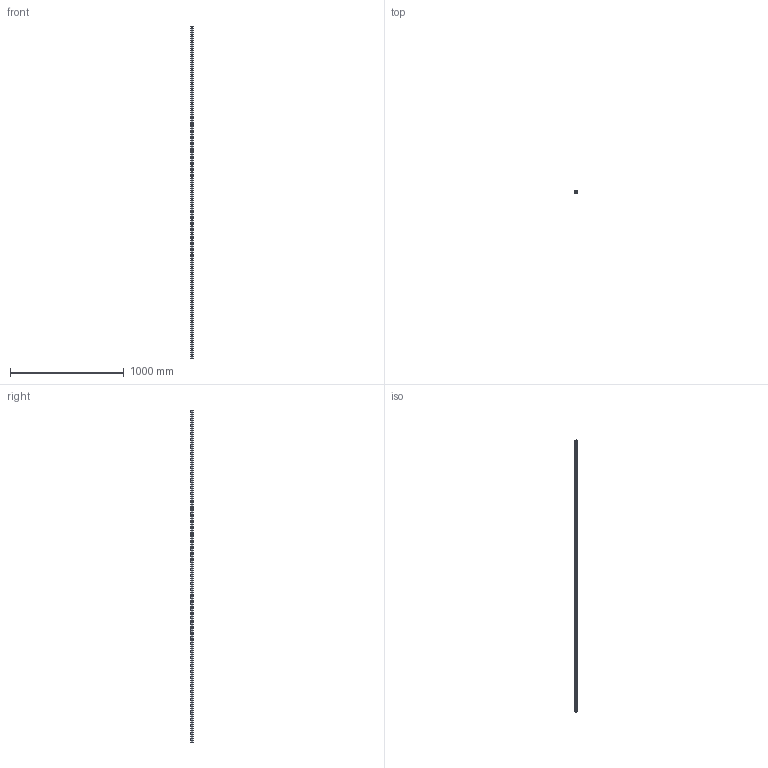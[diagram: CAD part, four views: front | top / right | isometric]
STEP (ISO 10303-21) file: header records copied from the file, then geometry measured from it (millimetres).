
FILE_DESCRIPTION (( 'STEP AP203' ), '1' );
FILE_NAME ('L1016.BL25-2920.step', '2019-06-12T12:13:07', ( '' ), ( '' ), 'SwSTEP 2.0', 'SolidWorks 2017', '' );
FILE_SCHEMA (( 'CONFIG_CONTROL_DESIGN' ));
Length unit declared in the file: millimetre
Products named in the file (1): L1016.BL25-2920
Bounding box: 23 x 19.2 x 2920 mm (x, y, z)
Volume: 1076054 mm3; surface area: 276291.8 mm2
Topology: 1 solids, 1 shells, 271 faces, 660 edges, 440 vertices
Faces by surface type: cylinder 200, plane 71
Entity records: 8447 total; most frequent: DIRECTION 1604, CARTESIAN_POINT 1372, ORIENTED_EDGE 1320, AXIS2_PLACEMENT_3D 672, EDGE_CURVE 660, VERTEX_POINT 440, EDGE_LOOP 418, CIRCLE 400
